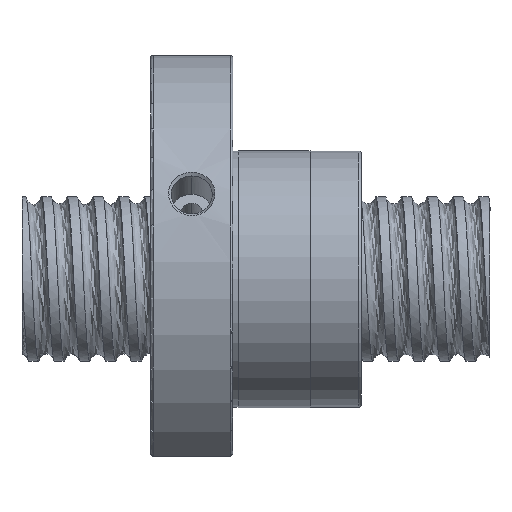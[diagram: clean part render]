
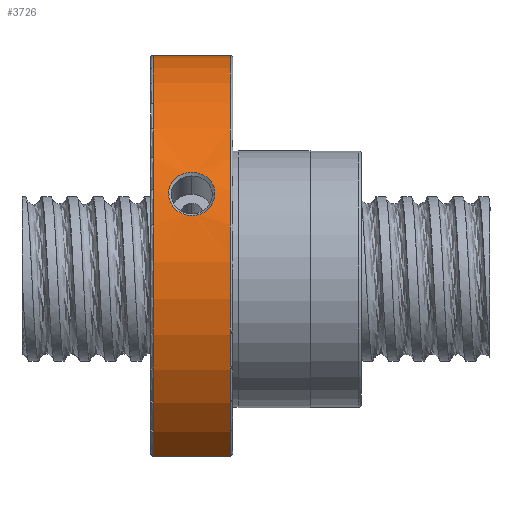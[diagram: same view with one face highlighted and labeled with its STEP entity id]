
A CAD part, front view. The second image highlights one B-rep face of the part: STEP entity #3726.
In plain terms, the highlighted cylindrical face has radius 43.5 mm (diameter 87 mm), a partial arc.
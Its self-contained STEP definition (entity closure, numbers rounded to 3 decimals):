
#3511 = VERTEX_POINT ( 'NONE', #17036 ) ;
#3513 = EDGE_CURVE ( 'NONE', #3511, #3514, #17035, .T. ) ;
#3514 = VERTEX_POINT ( 'NONE', #17030 ) ;
#3600 = VERTEX_POINT ( 'NONE', #17214 ) ;
#3602 = EDGE_CURVE ( 'NONE', #3603, #3600, #17174, .T. ) ;
#3603 = VERTEX_POINT ( 'NONE', #17175 ) ;
#3705 = ORIENTED_EDGE ( 'NONE', *, *, #3706, .T. ) ;
#3706 = EDGE_CURVE ( 'NONE', #3853, #3707, #17480, .T. ) ;
#3707 = VERTEX_POINT ( 'NONE', #17476 ) ;
#3708 = EDGE_CURVE ( 'NONE', #3600, #3603, #17475, .T. ) ;
#3709 = EDGE_LOOP ( 'NONE', ( #3705, #3930, #3932, #3933 ) ) ;
#3726 = ADVANCED_FACE ( 'NONE', ( #17747, #17746 ), #17852, .T. ) ;
#3727 = EDGE_LOOP ( 'NONE', ( #3728, #3729 ) ) ;
#3728 = ORIENTED_EDGE ( 'NONE', *, *, #3602, .T. ) ;
#3729 = ORIENTED_EDGE ( 'NONE', *, *, #3708, .T. ) ;
#3853 = VERTEX_POINT ( 'NONE', #17918 ) ;
#3930 = ORIENTED_EDGE ( 'NONE', *, *, #3931, .T. ) ;
#3931 = EDGE_CURVE ( 'NONE', #3707, #3511, #18087, .T. ) ;
#3932 = ORIENTED_EDGE ( 'NONE', *, *, #3513, .T. ) ;
#3933 = ORIENTED_EDGE ( 'NONE', *, *, #3934, .T. ) ;
#3934 = EDGE_CURVE ( 'NONE', #3514, #3853, #18083, .T. ) ;
#17030 = CARTESIAN_POINT ( 'NONE',  ( -40.5, -26.495, -34.5 ) ) ;
#17031 = DIRECTION ( 'NONE',  ( 0., 0., 1. ) ) ;
#17032 = DIRECTION ( 'NONE',  ( 1., 0., 0. ) ) ;
#17033 = CARTESIAN_POINT ( 'NONE',  ( -40.5, 0., 0. ) ) ;
#17034 = AXIS2_PLACEMENT_3D ( 'NONE', #17033, #17032, #17031 ) ;
#17035 = CIRCLE ( 'NONE', #17034, 43.5 ) ;
#17036 = CARTESIAN_POINT ( 'NONE',  ( -40.5, 0., 43.5 ) ) ;
#17155 = CARTESIAN_POINT ( 'NONE',  ( -28.5, -40.189, 16.647 ) ) ;
#17156 = CARTESIAN_POINT ( 'NONE',  ( -28.5, -39.96, 17.2 ) ) ;
#17157 = CARTESIAN_POINT ( 'NONE',  ( -28.616, -39.725, 17.733 ) ) ;
#17158 = CARTESIAN_POINT ( 'NONE',  ( -29.078, -39.253, 18.756 ) ) ;
#17159 = CARTESIAN_POINT ( 'NONE',  ( -29.402, -39.037, 19.198 ) ) ;
#17160 = CARTESIAN_POINT ( 'NONE',  ( -30.237, -38.656, 19.954 ) ) ;
#17161 = CARTESIAN_POINT ( 'NONE',  ( -30.724, -38.503, 20.245 ) ) ;
#17162 = CARTESIAN_POINT ( 'NONE',  ( -31.838, -38.282, 20.658 ) ) ;
#17163 = CARTESIAN_POINT ( 'NONE',  ( -32.413, -38.226, 20.761 ) ) ;
#17164 = CARTESIAN_POINT ( 'NONE',  ( -33.592, -38.226, 20.761 ) ) ;
#17165 = CARTESIAN_POINT ( 'NONE',  ( -34.166, -38.282, 20.658 ) ) ;
#17166 = CARTESIAN_POINT ( 'NONE',  ( -35.279, -38.503, 20.244 ) ) ;
#17167 = CARTESIAN_POINT ( 'NONE',  ( -35.765, -38.656, 19.953 ) ) ;
#17168 = CARTESIAN_POINT ( 'NONE',  ( -36.598, -39.037, 19.198 ) ) ;
#17169 = CARTESIAN_POINT ( 'NONE',  ( -36.922, -39.254, 18.754 ) ) ;
#17170 = CARTESIAN_POINT ( 'NONE',  ( -37.384, -39.726, 17.731 ) ) ;
#17171 = CARTESIAN_POINT ( 'NONE',  ( -37.5, -39.96, 17.198 ) ) ;
#17172 = CARTESIAN_POINT ( 'NONE',  ( -37.5, -40.189, 16.647 ) ) ;
#17174 = B_SPLINE_CURVE_WITH_KNOTS ( 'NONE', 3,
 ( #17172, #17171, #17170, #17169, #17168, #17167, #17166, #17165, #17164, #17163, #17162, #17161, #17160, #17159, #17158, #17157, #17156, #17155 ),
 .UNSPECIFIED., .F., .F.,
 ( 4, 2, 2, 2, 2, 2, 2, 2, 4 ),
 ( 0., 0.063, 0.125, 0.188, 0.25, 0.313, 0.375, 0.438, 0.5 ),
 .UNSPECIFIED. ) ;
#17175 = CARTESIAN_POINT ( 'NONE',  ( -37.5, -40.189, 16.647 ) ) ;
#17214 = CARTESIAN_POINT ( 'NONE',  ( -28.5, -40.189, 16.647 ) ) ;
#17472 = CARTESIAN_POINT ( 'NONE',  ( -28.5, -40.303, 16.37 ) ) ;
#17473 = CARTESIAN_POINT ( 'NONE',  ( -28.5, -40.189, 16.647 ) ) ;
#17475 = B_SPLINE_CURVE_WITH_KNOTS ( 'NONE', 3,
 ( #17473, #17472, #17536, #17535, #17534, #17533, #17532, #17531, #17530, #17529, #17528, #17527, #17526, #17525, #17524, #17523, #17522, #17521, #17520, #17519 ),
 .UNSPECIFIED., .F., .F.,
 ( 4, 2, 2, 2, 2, 2, 2, 2, 2, 4 ),
 ( 0.5, 0.531, 0.563, 0.625, 0.688, 0.75, 0.813, 0.875, 0.938, 1. ),
 .UNSPECIFIED. ) ;
#17476 = CARTESIAN_POINT ( 'NONE',  ( -25.5, 0., 43.5 ) ) ;
#17477 = DIRECTION ( 'NONE',  ( 0., 0., -1. ) ) ;
#17478 = DIRECTION ( 'NONE',  ( -1., 0., 0. ) ) ;
#17479 = AXIS2_PLACEMENT_3D ( 'NONE', #17485, #17478, #17477 ) ;
#17480 = CIRCLE ( 'NONE', #17479, 43.5 ) ;
#17485 = CARTESIAN_POINT ( 'NONE',  ( -25.5, 0., 0. ) ) ;
#17519 = CARTESIAN_POINT ( 'NONE',  ( -37.5, -40.189, 16.647 ) ) ;
#17520 = CARTESIAN_POINT ( 'NONE',  ( -37.5, -40.417, 16.096 ) ) ;
#17521 = CARTESIAN_POINT ( 'NONE',  ( -37.384, -40.628, 15.554 ) ) ;
#17522 = CARTESIAN_POINT ( 'NONE',  ( -36.922, -41.018, 14.494 ) ) ;
#17523 = CARTESIAN_POINT ( 'NONE',  ( -36.598, -41.178, 14.029 ) ) ;
#17524 = CARTESIAN_POINT ( 'NONE',  ( -35.765, -41.443, 13.225 ) ) ;
#17525 = CARTESIAN_POINT ( 'NONE',  ( -35.278, -41.541, 12.911 ) ) ;
#17526 = CARTESIAN_POINT ( 'NONE',  ( -34.166, -41.677, 12.463 ) ) ;
#17527 = CARTESIAN_POINT ( 'NONE',  ( -33.591, -41.71, 12.349 ) ) ;
#17528 = CARTESIAN_POINT ( 'NONE',  ( -32.413, -41.71, 12.35 ) ) ;
#17529 = CARTESIAN_POINT ( 'NONE',  ( -31.838, -41.677, 12.462 ) ) ;
#17530 = CARTESIAN_POINT ( 'NONE',  ( -30.724, -41.541, 12.91 ) ) ;
#17531 = CARTESIAN_POINT ( 'NONE',  ( -30.236, -41.443, 13.224 ) ) ;
#17532 = CARTESIAN_POINT ( 'NONE',  ( -29.403, -41.178, 14.027 ) ) ;
#17533 = CARTESIAN_POINT ( 'NONE',  ( -29.077, -41.018, 14.495 ) ) ;
#17534 = CARTESIAN_POINT ( 'NONE',  ( -28.732, -40.727, 15.285 ) ) ;
#17535 = CARTESIAN_POINT ( 'NONE',  ( -28.645, -40.625, 15.554 ) ) ;
#17536 = CARTESIAN_POINT ( 'NONE',  ( -28.529, -40.413, 16.096 ) ) ;
#17746 = FACE_OUTER_BOUND ( 'NONE', #3709, .T. ) ;
#17747 = FACE_BOUND ( 'NONE', #3727, .T. ) ;
#17766 = DIRECTION ( 'NONE',  ( 0., 0., 1. ) ) ;
#17767 = DIRECTION ( 'NONE',  ( -1., 0., 0. ) ) ;
#17851 = AXIS2_PLACEMENT_3D ( 'NONE', #17854, #17767, #17766 ) ;
#17852 = CYLINDRICAL_SURFACE ( 'NONE', #17851, 43.5 ) ;
#17854 = CARTESIAN_POINT ( 'NONE',  ( 0., 0., 0. ) ) ;
#17918 = CARTESIAN_POINT ( 'NONE',  ( -25.5, -26.495, -34.5 ) ) ;
#18080 = DIRECTION ( 'NONE',  ( 1., 0., 0. ) ) ;
#18081 = VECTOR ( 'NONE', #18080, 1000. ) ;
#18082 = CARTESIAN_POINT ( 'NONE',  ( 0., -26.495, -34.5 ) ) ;
#18083 = LINE ( 'NONE', #18082, #18081 ) ;
#18084 = DIRECTION ( 'NONE',  ( -1., 0., 0. ) ) ;
#18085 = VECTOR ( 'NONE', #18084, 1000. ) ;
#18086 = CARTESIAN_POINT ( 'NONE',  ( 0., 0., 43.5 ) ) ;
#18087 = LINE ( 'NONE', #18086, #18085 ) ;
